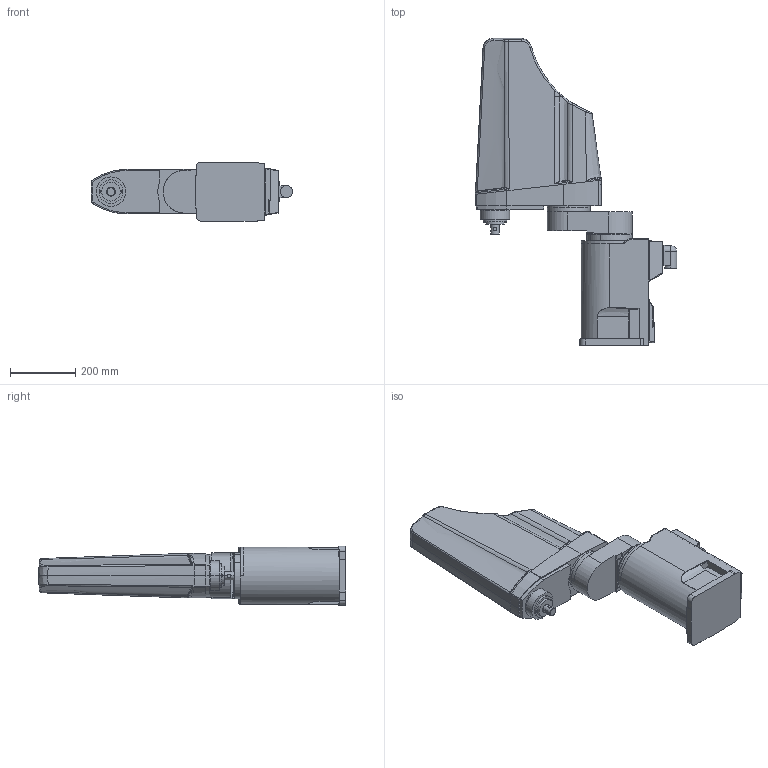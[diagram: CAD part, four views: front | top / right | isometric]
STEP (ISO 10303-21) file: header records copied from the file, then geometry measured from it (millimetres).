
FILE_DESCRIPTION((''),'2;1');
FILE_NAME('RH-6FH3534C-3D-ASSY_ASM_ASM','2012-04-25T',('AL99964'),(''),'PRO/ENGINEER BY PARAMETRIC TECHNOLOGY CORPORATION, 2010160','PRO/ENGINEER BY PARAMETRIC TECHNOLOGY CORPORATION, 2010160','');
FILE_SCHEMA(('CONFIG_CONTROL_DESIGN'));
Length unit declared in the file: millimetre
Products named in the file (7): RH-3-6FH_BASE_24; RH-3-6FH_NO1ARM_35_8; RH-6FH_NO2ARM_340; RH-6FH_SHAFT_3; RH-6FH_JABARA_CLEAN_340; BASE_BACK; RH-6FH3534C-3D-ASSY_ASM_ASM
Assembly tree (6 placements, depth 2):
  RH-6FH3534C-3D-ASSY_ASM_ASM
    RH-3-6FH_BASE_24
    RH-3-6FH_NO1ARM_35_8
    RH-6FH_NO2ARM_340
    RH-6FH_SHAFT_3
    RH-6FH_JABARA_CLEAN_340
    BASE_BACK
Bounding box: 615 x 938 x 182 mm (x, y, z)
Volume: 30603280.5 mm3; surface area: 1122112.9 mm2
Topology: 6 solids, 6 shells, 520 faces, 1273 edges, 782 vertices
Faces by surface type: cylinder 173, plane 147, bspline 143, torus 24, sphere 14, cone 13, extrusion 6
Entity records: 30137 total; most frequent: CARTESIAN_POINT 18897, ORIENTED_EDGE 2524, DIRECTION 2012, EDGE_CURVE 1262, VERTEX_POINT 782, AXIS2_PLACEMENT_3D 777, EDGE_LOOP 552, FACE_OUTER_BOUND 520
